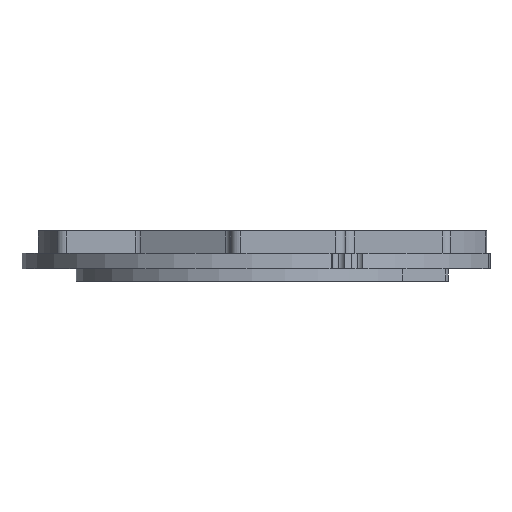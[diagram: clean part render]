
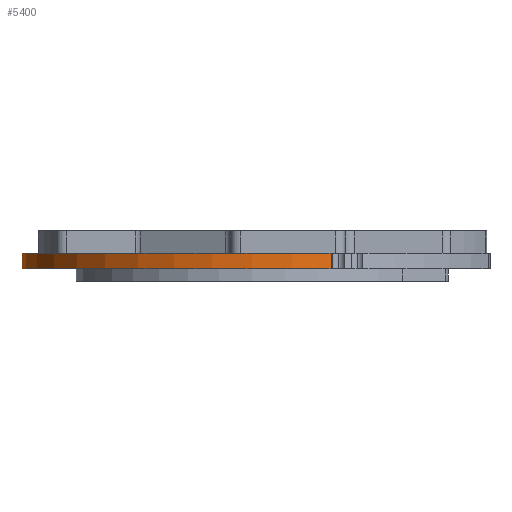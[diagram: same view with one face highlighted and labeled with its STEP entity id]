
A CAD part, left-side view. The second image highlights one B-rep face of the part: STEP entity #5400.
In plain terms, the highlighted cylindrical face has radius 25 mm (diameter 50 mm), a partial arc.
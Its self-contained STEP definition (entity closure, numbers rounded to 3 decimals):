
#1387 = CARTESIAN_POINT ( 'NONE',  ( 21.476, 47.759, -1.59 ) ) ;
#3361 = VERTEX_POINT ( 'NONE', #3423 ) ;
#3423 = CARTESIAN_POINT ( 'NONE',  ( -6.074, 16.259, -1.59 ) ) ;
#5289 = LINE ( 'NONE', #1387, #19720 ) ;
#5400 = ADVANCED_FACE ( 'NONE', ( #43686 ), #12111, .T. ) ;
#5859 = DIRECTION ( 'NONE',  ( 0., 0., -1. ) ) ;
#6160 = ORIENTED_EDGE ( 'NONE', *, *, #34170, .F. ) ;
#6649 = CARTESIAN_POINT ( 'NONE',  ( 21.476, 47.759, 0. ) ) ;
#7417 = DIRECTION ( 'NONE',  ( 0.418, -0.909, 0. ) ) ;
#9174 = ORIENTED_EDGE ( 'NONE', *, *, #9566, .F. ) ;
#9566 = EDGE_CURVE ( 'NONE', #16591, #41631, #5289, .T. ) ;
#10308 = AXIS2_PLACEMENT_3D ( 'NONE', #44584, #5859, #27108 ) ;
#11210 = AXIS2_PLACEMENT_3D ( 'NONE', #41441, #23271, #20471 ) ;
#11969 = CIRCLE ( 'NONE', #11210, 25. ) ;
#12111 = CYLINDRICAL_SURFACE ( 'NONE', #10308, 25. ) ;
#13388 = DIRECTION ( 'NONE',  ( 0., 0., 1. ) ) ;
#16591 = VERTEX_POINT ( 'NONE', #25980 ) ;
#17671 = VERTEX_POINT ( 'NONE', #23661 ) ;
#18862 = EDGE_LOOP ( 'NONE', ( #34310, #21260, #6160, #9174 ) ) ;
#19586 = DIRECTION ( 'NONE',  ( 0., 0., 1. ) ) ;
#19720 = VECTOR ( 'NONE', #33451, 1000. ) ;
#20471 = DIRECTION ( 'NONE',  ( 0.418, -0.909, 0. ) ) ;
#20932 = EDGE_CURVE ( 'NONE', #16591, #3361, #35503, .T. ) ;
#21260 = ORIENTED_EDGE ( 'NONE', *, *, #27095, .T. ) ;
#21505 = AXIS2_PLACEMENT_3D ( 'NONE', #28396, #13388, #7417 ) ;
#22387 = CARTESIAN_POINT ( 'NONE',  ( -6.074, 16.259, -1.59 ) ) ;
#23271 = DIRECTION ( 'NONE',  ( 0., 0., 1. ) ) ;
#23661 = CARTESIAN_POINT ( 'NONE',  ( -6.074, 16.259, 0. ) ) ;
#25980 = CARTESIAN_POINT ( 'NONE',  ( 21.476, 47.759, -1.59 ) ) ;
#27095 = EDGE_CURVE ( 'NONE', #3361, #17671, #30213, .T. ) ;
#27108 = DIRECTION ( 'NONE',  ( 0.418, -0.909, 0. ) ) ;
#28396 = CARTESIAN_POINT ( 'NONE',  ( 17.999, 23.002, -1.59 ) ) ;
#29294 = VECTOR ( 'NONE', #19586, 1000. ) ;
#30213 = LINE ( 'NONE', #22387, #29294 ) ;
#33451 = DIRECTION ( 'NONE',  ( 0., 0., 1. ) ) ;
#34170 = EDGE_CURVE ( 'NONE', #41631, #17671, #11969, .T. ) ;
#34310 = ORIENTED_EDGE ( 'NONE', *, *, #20932, .T. ) ;
#35503 = CIRCLE ( 'NONE', #21505, 25. ) ;
#41441 = CARTESIAN_POINT ( 'NONE',  ( 17.999, 23.002, 0. ) ) ;
#41631 = VERTEX_POINT ( 'NONE', #6649 ) ;
#43686 = FACE_OUTER_BOUND ( 'NONE', #18862, .T. ) ;
#44584 = CARTESIAN_POINT ( 'NONE',  ( 17.999, 23.002, -1.59 ) ) ;
